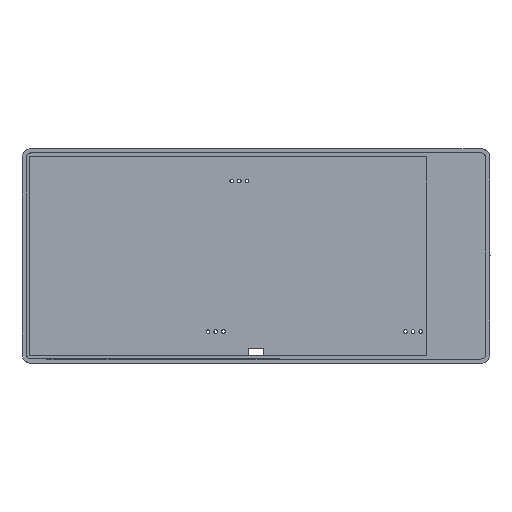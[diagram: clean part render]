
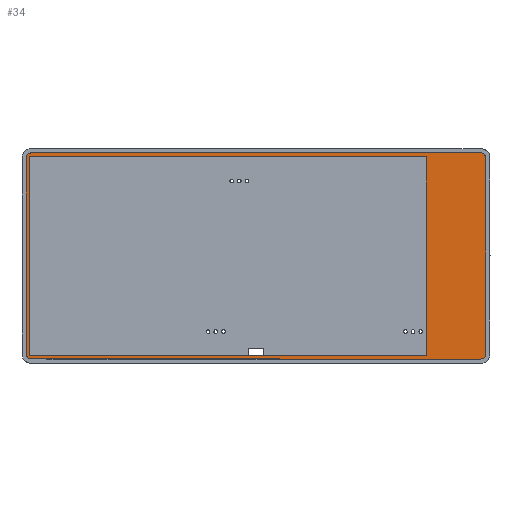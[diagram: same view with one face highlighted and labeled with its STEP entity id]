
A CAD part, top view. The second image highlights one B-rep face of the part: STEP entity #34.
In plain terms, the highlighted planar face has unit normal (0, 0, 1).
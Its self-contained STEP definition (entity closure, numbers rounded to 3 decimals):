
#14=FACE_BOUND($,#303,.T.);
#34=ADVANCED_FACE($,(#168,#14),#1871,.T.);
#168=FACE_OUTER_BOUND($,#302,.T.);
#302=EDGE_LOOP($,(#458,#459));
#303=EDGE_LOOP($,(#460,#461));
#458=ORIENTED_EDGE($,*,*,#1219,.T.);
#459=ORIENTED_EDGE($,*,*,#1548,.T.);
#460=ORIENTED_EDGE($,*,*,#1221,.T.);
#461=ORIENTED_EDGE($,*,*,#1546,.T.);
#1219=EDGE_CURVE($,#1599,#1817,#1980,.T.);
#1221=EDGE_CURVE($,#1600,#1815,#1981,.T.);
#1546=EDGE_CURVE($,#1815,#1600,#2037,.T.);
#1548=EDGE_CURVE($,#1817,#1599,#2038,.T.);
#1599=VERTEX_POINT($,#9907);
#1600=VERTEX_POINT($,#9908);
#1815=VERTEX_POINT($,#10123);
#1817=VERTEX_POINT($,#10125);
#1871=PLANE($,#2448);
#1980=(
BOUNDED_CURVE()
B_SPLINE_CURVE(2,(#2589,#2590,#2591,#2592,#2593,#2594,#2595,#2596,#2597),
.UNSPECIFIED.,.F.,.F.)
B_SPLINE_CURVE_WITH_KNOTS((3,2,2,2,3),(-357.033,-318.233,
-313.521,-181.369,-176.657),.UNSPECIFIED.)
CURVE()
GEOMETRIC_REPRESENTATION_ITEM()
RATIONAL_B_SPLINE_CURVE((1.,1.,1.,0.707,1.,1.,1.,0.707,
1.))
REPRESENTATION_ITEM($)
);
#1981=(
BOUNDED_CURVE()
B_SPLINE_CURVE(2,(#2600,#2601,#2602,#2603,#2604,#2605,#2606,#2607,#2608),
.UNSPECIFIED.,.F.,.F.)
B_SPLINE_CURVE_WITH_KNOTS((3,2,2,2,3),(-392.995,-392.195,
-327.195,-326.395,-196.498),.UNSPECIFIED.)
CURVE()
GEOMETRIC_REPRESENTATION_ITEM()
RATIONAL_B_SPLINE_CURVE((1.,0.707,1.,1.,1.,0.707,
1.,1.,1.))
REPRESENTATION_ITEM($)
);
#2037=(
BOUNDED_CURVE()
B_SPLINE_CURVE(2,(#5816,#5817,#5818,#5819,#5820,#5821,#5822,#5823,#5824),
.UNSPECIFIED.,.F.,.F.)
B_SPLINE_CURVE_WITH_KNOTS((3,2,2,2,3),(-196.498,-195.698,
-130.698,-129.898,0.),.UNSPECIFIED.)
CURVE()
GEOMETRIC_REPRESENTATION_ITEM()
RATIONAL_B_SPLINE_CURVE((1.,0.707,1.,1.,1.,0.707,
1.,1.,1.))
REPRESENTATION_ITEM($)
);
#2038=(
BOUNDED_CURVE()
B_SPLINE_CURVE(2,(#5827,#5828,#5829,#5830,#5831,#5832,#5833,#5834,#5835),
.UNSPECIFIED.,.F.,.F.)
B_SPLINE_CURVE_WITH_KNOTS((3,2,2,2,3),(-176.657,-137.857,
-133.144,-0.992,3.72),.UNSPECIFIED.)
CURVE()
GEOMETRIC_REPRESENTATION_ITEM()
RATIONAL_B_SPLINE_CURVE((1.,1.,1.,0.707,1.,1.,1.,0.707,
1.))
REPRESENTATION_ITEM($)
);
#2448=AXIS2_PLACEMENT_3D($,#6040,#2512,$);
#2512=DIRECTION($,(0.,0.,1.));
#2589=CARTESIAN_POINT($,(152.6,59.,4.7));
#2590=CARTESIAN_POINT($,(152.6,91.3,4.7));
#2591=CARTESIAN_POINT($,(152.6,123.6,4.7));
#2592=CARTESIAN_POINT($,(152.6,125.2,4.7));
#2593=CARTESIAN_POINT($,(151.,125.2,4.7));
#2594=CARTESIAN_POINT($,(77.,125.2,4.7));
#2595=CARTESIAN_POINT($,(3.,125.2,4.7));
#2596=CARTESIAN_POINT($,(1.4,125.2,4.7));
#2597=CARTESIAN_POINT($,(1.4,123.6,4.7));
#2600=CARTESIAN_POINT($,(2.814,58.4,4.7));
#2601=CARTESIAN_POINT($,(2.414,58.4,4.7));
#2602=CARTESIAN_POINT($,(2.414,58.8,4.7));
#2603=CARTESIAN_POINT($,(2.414,91.3,4.7));
#2604=CARTESIAN_POINT($,(2.414,123.8,4.7));
#2605=CARTESIAN_POINT($,(2.414,124.2,4.7));
#2606=CARTESIAN_POINT($,(2.814,124.2,4.7));
#2607=CARTESIAN_POINT($,(67.763,124.2,4.7));
#2608=CARTESIAN_POINT($,(132.712,124.2,4.7));
#5816=CARTESIAN_POINT($,(132.712,124.2,4.7));
#5817=CARTESIAN_POINT($,(133.112,124.2,4.7));
#5818=CARTESIAN_POINT($,(133.112,123.8,4.7));
#5819=CARTESIAN_POINT($,(133.112,91.3,4.7));
#5820=CARTESIAN_POINT($,(133.112,58.8,4.7));
#5821=CARTESIAN_POINT($,(133.112,58.4,4.7));
#5822=CARTESIAN_POINT($,(132.712,58.4,4.7));
#5823=CARTESIAN_POINT($,(67.763,58.4,4.7));
#5824=CARTESIAN_POINT($,(2.814,58.4,4.7));
#5827=CARTESIAN_POINT($,(1.4,123.6,4.7));
#5828=CARTESIAN_POINT($,(1.4,91.3,4.7));
#5829=CARTESIAN_POINT($,(1.4,59.,4.7));
#5830=CARTESIAN_POINT($,(1.4,57.4,4.7));
#5831=CARTESIAN_POINT($,(3.,57.4,4.7));
#5832=CARTESIAN_POINT($,(77.,57.4,4.7));
#5833=CARTESIAN_POINT($,(151.,57.4,4.7));
#5834=CARTESIAN_POINT($,(152.6,57.4,4.7));
#5835=CARTESIAN_POINT($,(152.6,59.,4.7));
#6040=CARTESIAN_POINT($,(1.4,57.4,4.7));
#9907=CARTESIAN_POINT($,(152.6,59.,4.7));
#9908=CARTESIAN_POINT($,(2.814,58.4,4.7));
#10123=CARTESIAN_POINT($,(132.712,124.2,4.7));
#10125=CARTESIAN_POINT($,(1.4,123.6,4.7));
